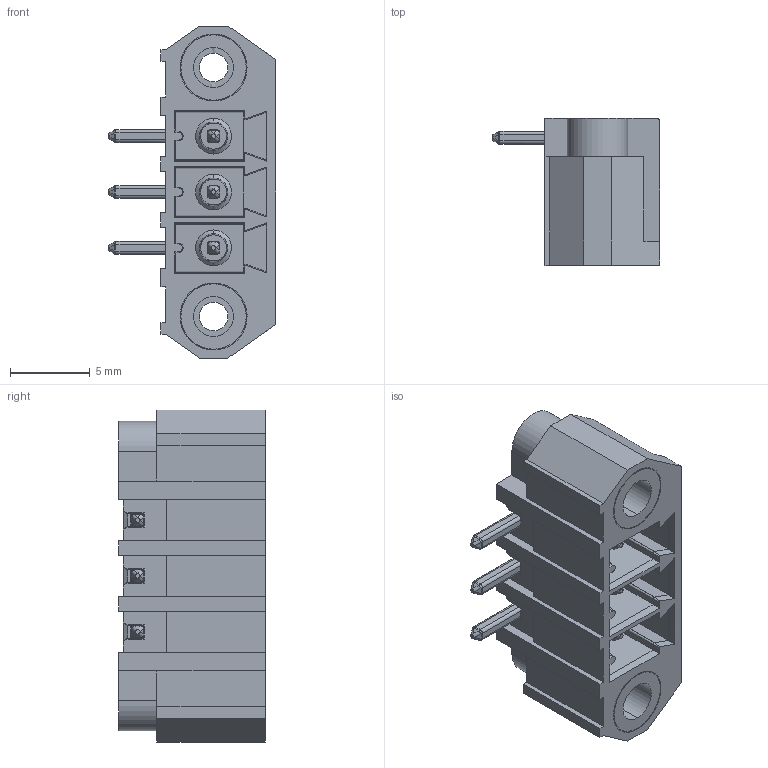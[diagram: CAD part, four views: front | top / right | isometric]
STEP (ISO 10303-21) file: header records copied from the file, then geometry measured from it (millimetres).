
FILE_DESCRIPTION (( 'STEP AP214' ), '1' );
FILE_NAME ('110-M-215-THR-03.STEP', '2008-02-07T21:40:47', ( 'weco' ), ( 'weco' ), 'SwSTEP 2.0', 'SolidWorks 2007', '' );
FILE_SCHEMA (( 'AUTOMOTIVE_DESIGN' ));
Length unit declared in the file: millimetre
Products named in the file (1): 110-M-215-THR-03
Bounding box: 10.5 x 9.2 x 20.8 mm (x, y, z)
Volume: 703.8 mm3; surface area: 1559.7 mm2
Topology: 1 solids, 1 shells, 722 faces, 2004 edges, 1239 vertices
Faces by surface type: plane 411, cylinder 217, cone 52, bspline 42
Entity records: 24411 total; most frequent: CARTESIAN_POINT 7463, ORIENTED_EDGE 3958, DIRECTION 3053, EDGE_CURVE 1979, VERTEX_POINT 1239, VECTOR 1141, LINE 1141, AXIS2_PLACEMENT_3D 956
